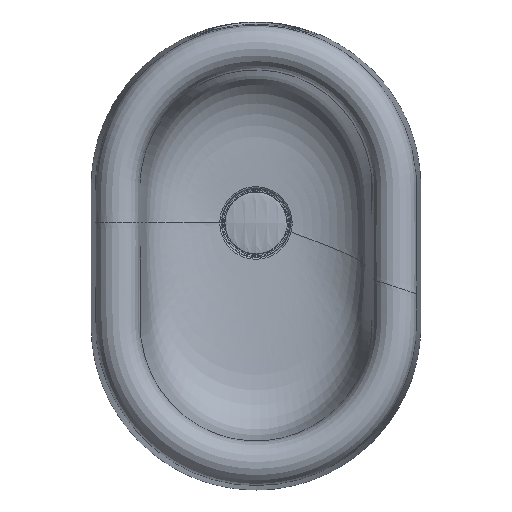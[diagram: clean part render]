
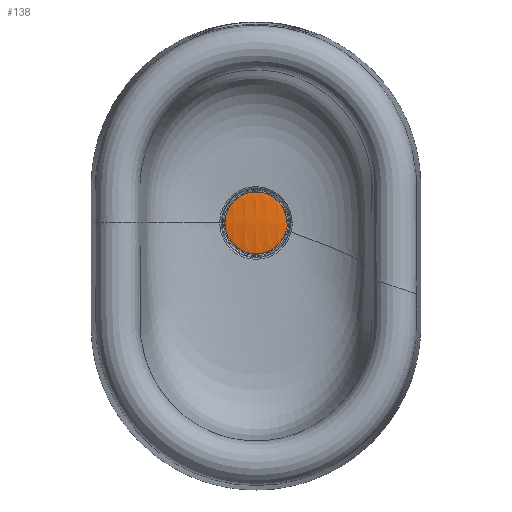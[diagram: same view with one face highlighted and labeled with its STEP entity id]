
A CAD part, top view. The second image highlights one B-rep face of the part: STEP entity #138.
In plain terms, the highlighted free-form (B-spline) face has degree [2, 2] with [9, 5] control points.
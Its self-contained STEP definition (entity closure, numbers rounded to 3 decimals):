
#138=ADVANCED_FACE('',(#180),#689,.T.);
#180=FACE_OUTER_BOUND('',#222,.T.);
#222=EDGE_LOOP('',(#265,#266));
#265=ORIENTED_EDGE('',*,*,#483,.T.);
#266=ORIENTED_EDGE('',*,*,#483,.F.);
#483=EDGE_CURVE('',#617,#618,#592,.T.);
#592=(
BOUNDED_CURVE()
B_SPLINE_CURVE(2,(#878,#879,#880,#881,#882),.UNSPECIFIED.,.F.,.F.)
B_SPLINE_CURVE_WITH_KNOTS((3,2,3),(-1.571,0.,1.571),
 .UNSPECIFIED.)
CURVE()
GEOMETRIC_REPRESENTATION_ITEM()
RATIONAL_B_SPLINE_CURVE((1.,0.707,1.,0.707,1.))
REPRESENTATION_ITEM('')
);
#617=VERTEX_POINT('',#876);
#618=VERTEX_POINT('',#877);
#689=(
BOUNDED_SURFACE()
B_SPLINE_SURFACE(2,2,((#831,#832,#833,#834,#835),(#836,#837,#838,#839,#840),
(#841,#842,#843,#844,#845),(#846,#847,#848,#849,#850),(#851,#852,#853,#854,
#855),(#856,#857,#858,#859,#860),(#861,#862,#863,#864,#865),(#866,#867,
#868,#869,#870),(#871,#872,#873,#874,#875)),.UNSPECIFIED.,.T.,.F.,.F.)
B_SPLINE_SURFACE_WITH_KNOTS((3,2,2,2,3),(3,2,3),(0.,1.571,3.142,
4.712,6.283),(-1.571,0.,1.571),
 .UNSPECIFIED.)
GEOMETRIC_REPRESENTATION_ITEM()
RATIONAL_B_SPLINE_SURFACE(((1.,0.707,1.,0.707,1.),
(0.707,0.5,0.707,0.5,0.707),(1.,0.707,
1.,0.707,1.),(0.707,0.5,0.707,0.5,0.707),
(1.,0.707,1.,0.707,1.),(0.707,0.5,0.707,
0.5,0.707),(1.,0.707,1.,0.707,1.),(0.707,
0.5,0.707,0.5,0.707),(1.,0.707,1.,0.707,
1.)))
REPRESENTATION_ITEM('')
SURFACE()
);
#831=CARTESIAN_POINT('',(637.368,-209.322,293.198));
#832=CARTESIAN_POINT('',(637.368,-173.645,293.184));
#833=CARTESIAN_POINT('',(601.623,-173.645,293.184));
#834=CARTESIAN_POINT('',(565.878,-173.645,293.184));
#835=CARTESIAN_POINT('',(565.878,-209.322,293.198));
#836=CARTESIAN_POINT('',(637.368,-209.322,293.198));
#837=CARTESIAN_POINT('',(637.368,-173.646,290.512));
#838=CARTESIAN_POINT('',(601.623,-173.646,290.512));
#839=CARTESIAN_POINT('',(565.878,-173.646,290.512));
#840=CARTESIAN_POINT('',(565.878,-209.322,293.198));
#841=CARTESIAN_POINT('',(637.368,-209.322,293.198));
#842=CARTESIAN_POINT('',(637.368,-209.323,290.526));
#843=CARTESIAN_POINT('',(601.623,-209.323,290.526));
#844=CARTESIAN_POINT('',(565.878,-209.323,290.526));
#845=CARTESIAN_POINT('',(565.878,-209.322,293.198));
#846=CARTESIAN_POINT('',(637.368,-209.322,293.198));
#847=CARTESIAN_POINT('',(637.368,-245.,290.54));
#848=CARTESIAN_POINT('',(601.623,-245.,290.54));
#849=CARTESIAN_POINT('',(565.878,-245.,290.54));
#850=CARTESIAN_POINT('',(565.878,-209.322,293.198));
#851=CARTESIAN_POINT('',(637.368,-209.322,293.198));
#852=CARTESIAN_POINT('',(637.368,-244.999,293.212));
#853=CARTESIAN_POINT('',(601.623,-244.999,293.212));
#854=CARTESIAN_POINT('',(565.878,-244.999,293.212));
#855=CARTESIAN_POINT('',(565.878,-209.322,293.198));
#856=CARTESIAN_POINT('',(637.368,-209.322,293.198));
#857=CARTESIAN_POINT('',(637.368,-244.998,295.884));
#858=CARTESIAN_POINT('',(601.623,-244.998,295.884));
#859=CARTESIAN_POINT('',(565.878,-244.998,295.884));
#860=CARTESIAN_POINT('',(565.878,-209.322,293.198));
#861=CARTESIAN_POINT('',(637.368,-209.322,293.198));
#862=CARTESIAN_POINT('',(637.368,-209.321,295.87));
#863=CARTESIAN_POINT('',(601.623,-209.321,295.87));
#864=CARTESIAN_POINT('',(565.878,-209.321,295.87));
#865=CARTESIAN_POINT('',(565.878,-209.322,293.198));
#866=CARTESIAN_POINT('',(637.368,-209.322,293.198));
#867=CARTESIAN_POINT('',(637.368,-173.644,295.856));
#868=CARTESIAN_POINT('',(601.623,-173.644,295.856));
#869=CARTESIAN_POINT('',(565.878,-173.644,295.856));
#870=CARTESIAN_POINT('',(565.878,-209.322,293.198));
#871=CARTESIAN_POINT('',(637.368,-209.322,293.198));
#872=CARTESIAN_POINT('',(637.368,-173.645,293.184));
#873=CARTESIAN_POINT('',(601.623,-173.645,293.184));
#874=CARTESIAN_POINT('',(565.878,-173.645,293.184));
#875=CARTESIAN_POINT('',(565.878,-209.322,293.198));
#876=CARTESIAN_POINT('',(637.368,-209.322,293.198));
#877=CARTESIAN_POINT('',(565.878,-209.322,293.198));
#878=CARTESIAN_POINT('',(637.368,-209.322,293.198));
#879=CARTESIAN_POINT('',(637.368,-173.645,293.184));
#880=CARTESIAN_POINT('',(601.623,-173.645,293.184));
#881=CARTESIAN_POINT('',(565.878,-173.645,293.184));
#882=CARTESIAN_POINT('',(565.878,-209.322,293.198));
